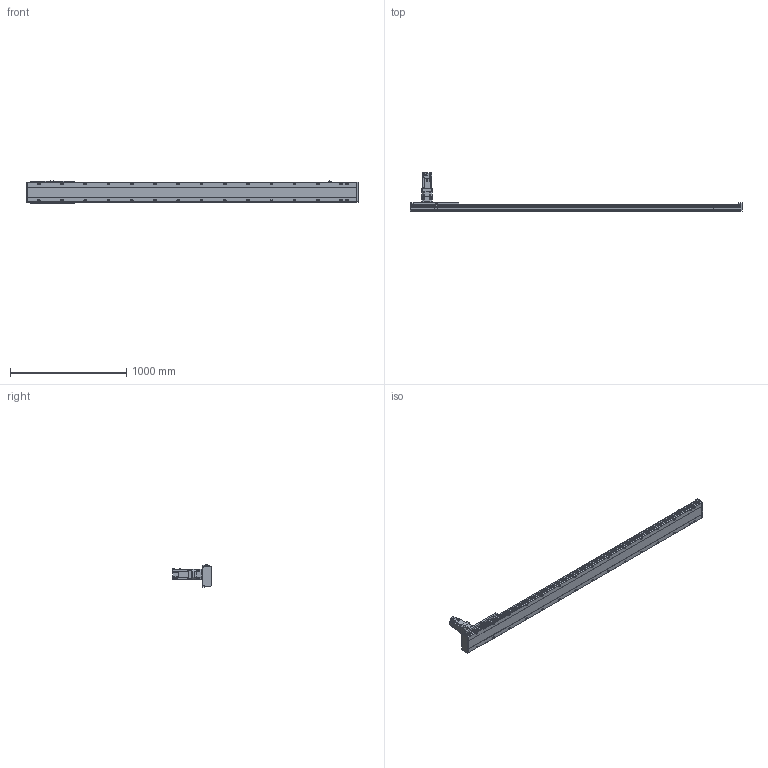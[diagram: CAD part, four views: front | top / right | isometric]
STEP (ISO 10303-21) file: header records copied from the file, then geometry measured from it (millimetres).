
FILE_DESCRIPTION(/* description */ ('STEP AP203'),/* implementation_level */ '2;1');
FILE_NAME(/* name */ 'SHS17A-L13-S2400-BC-T75-C1-N(0)',/* time_stamp */ '2023-03-27T08:58:08+02:00',/* author */ ('License CC BY-ND 4.0'),/* organization */ ('CADENAS'),/* preprocessor_version */ 'ST-DEVELOPER v19.3',/* originating_system */ 'PARTsolutions',/* authorisation */ ' ');
FILE_SCHEMA (('CONFIG_CONTROL_DESIGN'));
Length unit declared in the file: millimetre
Products named in the file (7): SHS17A-L13-S2400-BC-T75-C1-N(0); PSC140-sensor; SHS17A-S2400(0)_body2; T75-p1; SHS17A-S2400_body3; SHS17A-S2400-C1(0)_slider; SHS17A-S2400-C1(0)_body
Assembly tree (13 placements, depth 2):
  SHS17A-L13-S2400-BC-T75-C1-N(0)
    PSC140-sensor  x3
    SHS17A-S2400(0)_body2  x6
    T75-p1
    SHS17A-S2400_body3
    SHS17A-S2400-C1(0)_slider
    SHS17A-S2400-C1(0)_body
Bounding box: 2854 x 333.8 x 193.4 mm (x, y, z)
Volume: 20527506.7 mm3; surface area: 2391084.6 mm2
Topology: 13 solids, 13 shells, 2136 faces, 5426 edges, 3535 vertices
Faces by surface type: plane 1364, cylinder 685, cone 84, torus 3
Full cylindrical faces by diameter (mm): 2.8 x3, 4.134 x24, 4.5 x2, 4.6 x3, 4.917 x15, 5.5 x48, 6 x7, 6.5 x24, 6.647 x38, 6.8 x9, 8 x3, 8.5 x30, 10 x28, 11 x4, 14 x30, 22 x1, 24 x1, 24.2 x1, 28 x1, 28.2 x1, 28.8 x1, 29.8 x1, 48.542 x1, 68 x1, 70 x1, 78 x1, 80 x2
Entity records: 40794 total; most frequent: CARTESIAN_POINT 7938, DIRECTION 6673, ORIENTED_EDGE 6420, EDGE_CURVE 3210, AXIS2_PLACEMENT_3D 2352, VERTEX_POINT 2257, LINE 1969, VECTOR 1969
